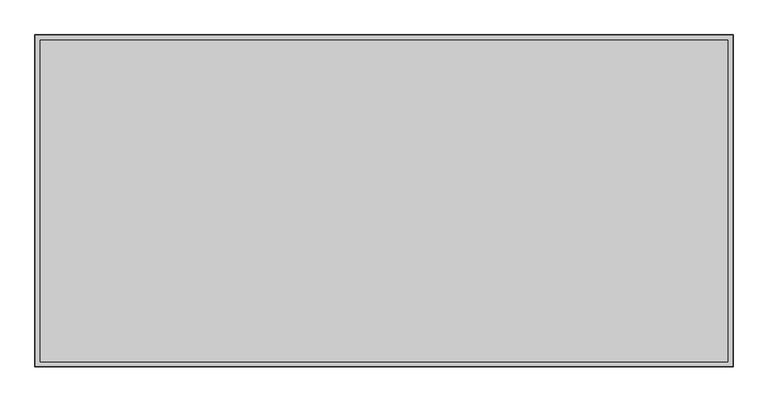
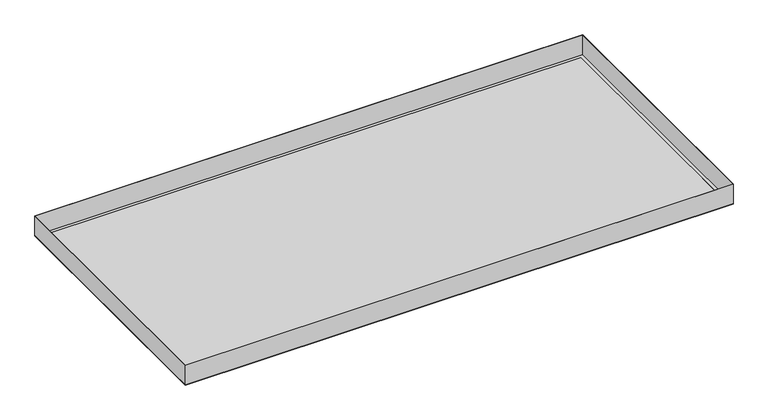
"""IFC4 building model written with IfcOpenShell, lengths in millimetres: proxy geometry, durlum_S5-100_panel : durlum_S5-100_panel_wall_width_cut."""

from ifc_helpers import new_model, si_unit, frame, origin, origin_with_axes, place, context, project, spatial, polyline, outline, extrude, source, transform, mapped, element, save


def generic_models_f7f565fa(model_context):
    return source(origin(), model_context, "Body", "SweptSolid", [
        extrude(outline(polyline([(524.5, 249.75), (524.5, -249.75), (-524.5, -249.75), (-524.5, 249.75), (524.5, 249.75)]), holes=[polyline([(523.9, 249.15), (-523.9, 249.15), (-523.9, -249.15), (523.9, -249.15), (523.9, 249.15)])]), frame((0.0, 0.0, 0.6), z_axis=(0.0, 0.0, 1.0), x_axis=(1.0, 0.0, 0.0)), (0.0, 0.0, 1.0), 39.4),
        extrude(outline(polyline([(516.5, 241.75), (516.5, -241.75), (-516.5, -241.75), (-516.5, 241.75), (516.5, 241.75)])), frame((0.0, 0.0, 0.6), z_axis=(0.0, 0.0, 1.0), x_axis=(1.0, 0.0, 0.0)), (0.0, 0.0, 1.0), 0.6),
        extrude(outline(polyline([(524.5, 249.75), (524.5, -249.75), (-524.5, -249.75), (-524.5, 249.75), (524.5, 249.75)]), holes=[polyline([(516.5, 241.75), (-516.5, 241.75), (-516.5, -241.75), (516.5, -241.75), (516.5, 241.75)])]), origin_with_axes(), (0.0, 0.0, 1.0), 0.6),
        extrude(outline(polyline([(516.5, 241.75), (516.5, -241.75), (-516.5, -241.75), (-516.5, 241.75), (516.5, 241.75)])), origin_with_axes(), (0.0, 0.0, 1.0), 0.6),
    ])


if __name__ == "__main__":
    model = new_model("IFC4")
    model_context = context("Model", 3, world=origin())
    ifc_project = project(units=[si_unit("LENGTHUNIT", "METRE", prefix="MILLI")], contexts=[model_context])
    site = spatial("IfcSite", under=ifc_project)
    building = spatial("IfcBuilding", under=site)
    placement = place(None, origin())
    generic_models_shape = generic_models_f7f565fa(model_context)
    element("IfcBuildingElementProxy", 1, Name="durlum_S5-100_panel : durlum_S5-100_panel_wall_width_cut", ObjectType="durlum_S5-100_panel : durlum_S5-100_panel_wall_width_cut", at=placement, inside=building, context=model_context, shape_type="MappedRepresentation", body=[
        mapped(generic_models_shape, transform((0.0, 0.0, 0.0), x_axis=(1.0, 0.0, 0.0), y_axis=(0.0, 1.0, 0.0), z_axis=(0.0, 0.0, 1.0))),
    ])
    save(model, "model.ifc")
